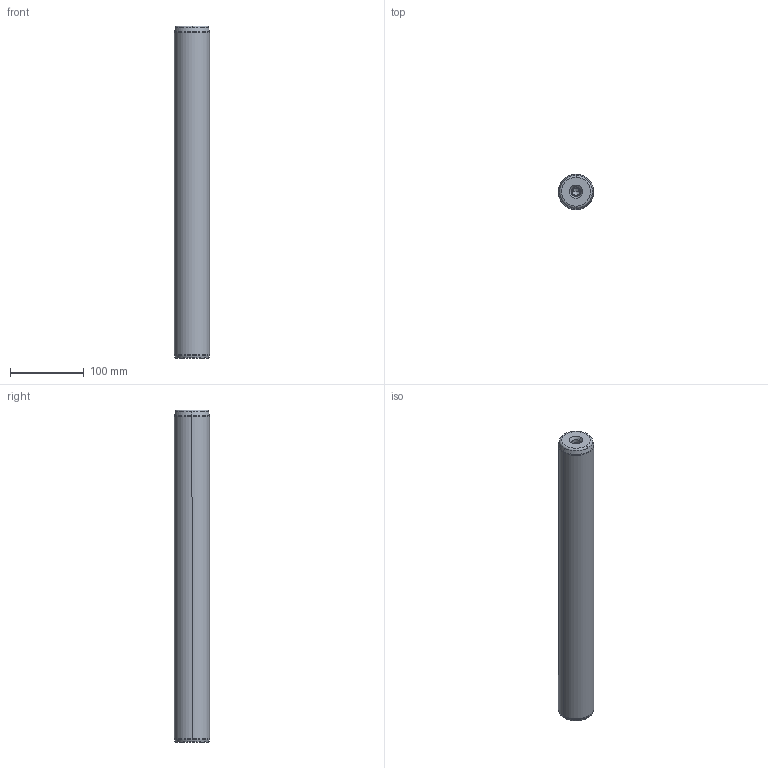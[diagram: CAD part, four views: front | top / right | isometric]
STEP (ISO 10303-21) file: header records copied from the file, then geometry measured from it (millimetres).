
FILE_DESCRIPTION((''),'2;1');
FILE_NAME('P10_048_450.stp','2008-12-23T16:09:54',(''),(''),'Mechanical Desktop 2009','Mechanical Desktop 2009',', , ');
FILE_SCHEMA(('CONFIG_CONTROL_DESIGN'));
Length unit declared in the file: millimetre
Products named in the file (5): Product; ProductAA; blmdl1; ProductA; blmdl1A
Assembly tree (2 placements, depth 3):
  Product
    ProductAA
      blmdl1
  ProductA
  blmdl1A
Bounding box: 48 x 48 x 450 mm (x, y, z)
Volume: 808734.4 mm3; surface area: 72135.2 mm2
Topology: 1 solids, 1 shells, 26 faces, 66 edges, 41 vertices
Faces by surface type: cone 10, torus 8, cylinder 6, plane 2
Entity records: 1012 total; most frequent: DIRECTION 170, CARTESIAN_POINT 134, ORIENTED_EDGE 128, AXIS2_PLACEMENT_3D 77, EDGE_CURVE 64, CIRCLE 48, VERTEX_POINT 41, EDGE_LOOP 27
